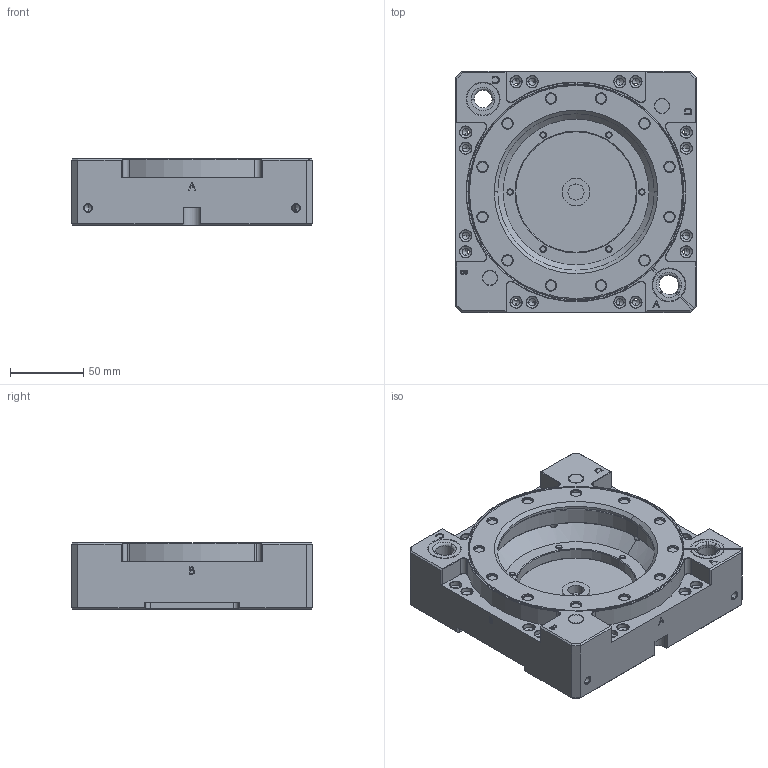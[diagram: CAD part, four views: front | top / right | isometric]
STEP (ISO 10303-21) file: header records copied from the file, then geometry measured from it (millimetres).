
FILE_DESCRIPTION (( 'STEP AP203' ), '1' );
FILE_NAME ('QCA-S350G.STEP', '2024-03-20T03:07:16', ( '微软用户' ), ( '微软中国' ), 'SwSTEP 2.0', 'SolidWorks 2018', '' );
FILE_SCHEMA (( 'CONFIG_CONTROL_DESIGN' ));
Length unit declared in the file: millimetre
Products named in the file (1): QCA-S350G
Bounding box: 165 x 165 x 45.6 mm (x, y, z)
Volume: 716226.5 mm3; surface area: 148436.8 mm2
Topology: 1 solids, 32 shells, 1509 faces, 3610 edges, 2144 vertices
Faces by surface type: plane 549, cone 466, cylinder 397, bspline 97
Entity records: 49423 total; most frequent: CARTESIAN_POINT 14622, DIRECTION 7531, ORIENTED_EDGE 6968, EDGE_CURVE 3484, AXIS2_PLACEMENT_3D 2831, VERTEX_POINT 2144, LINE 1869, VECTOR 1869
